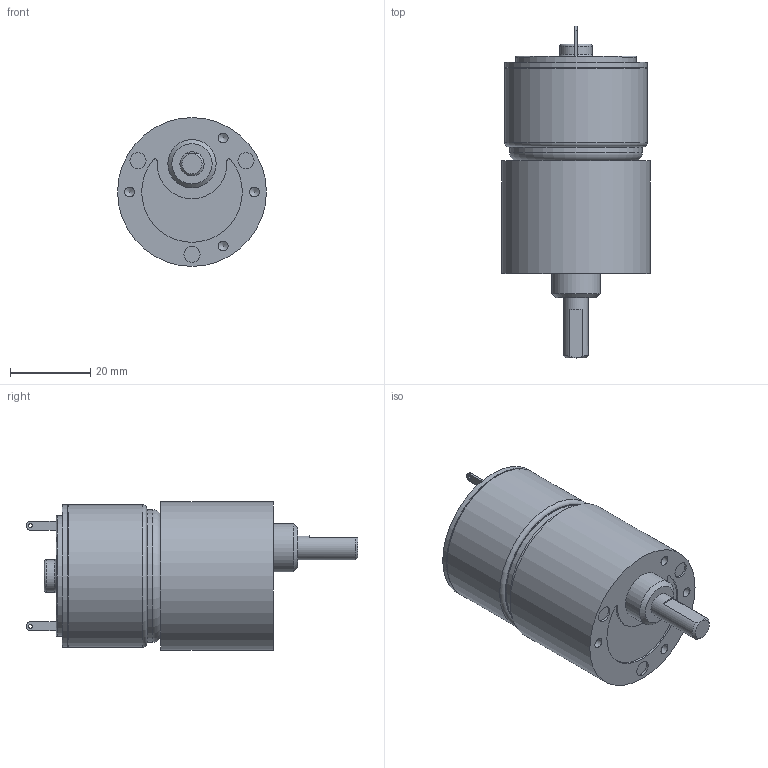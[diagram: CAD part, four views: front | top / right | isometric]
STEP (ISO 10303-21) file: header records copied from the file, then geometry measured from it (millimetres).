
FILE_DESCRIPTION((''),'2;1');
FILE_NAME('C:\Documents and Settings\SSEGAWA\デスクトップ\TP-3526G-KM-4.STP','2013-07-09T17:27:51',('SSEGAWA'),(''),'Autodesk Inventor 2010','Autodesk Inventor 2010','');
FILE_SCHEMA(('CONFIG_CONTROL_DESIGN'));
Length unit declared in the file: millimetre
Products named in the file (3): tp_3526g_km_4; km_4; tp_3526g
Assembly tree (2 placements, depth 2):
  tp_3526g_km_4
    km_4
    tp_3526g
Bounding box: 37 x 82.5 x 37 mm (x, y, z)
Volume: 55902.5 mm3; surface area: 11077.5 mm2
Topology: 2 solids, 2 shells, 77 faces, 158 edges, 103 vertices
Faces by surface type: plane 30, cylinder 23, bspline 17, torus 4, cone 3
Full cylindrical faces by diameter (mm): 2 x1, 2.4 x1, 4 x3, 5 x2, 6 x1, 8 x1, 10 x1, 12 x1, 30 x1, 33 x1, 35 x1, 35.4 x2, 37 x1
Entity records: 2095 total; most frequent: CARTESIAN_POINT 645, DIRECTION 303, ORIENTED_EDGE 204, EDGE_LOOP 139, AXIS2_PLACEMENT_3D 138, EDGE_CURVE 102, VERTEX_POINT 87, FACE_OUTER_BOUND 77
